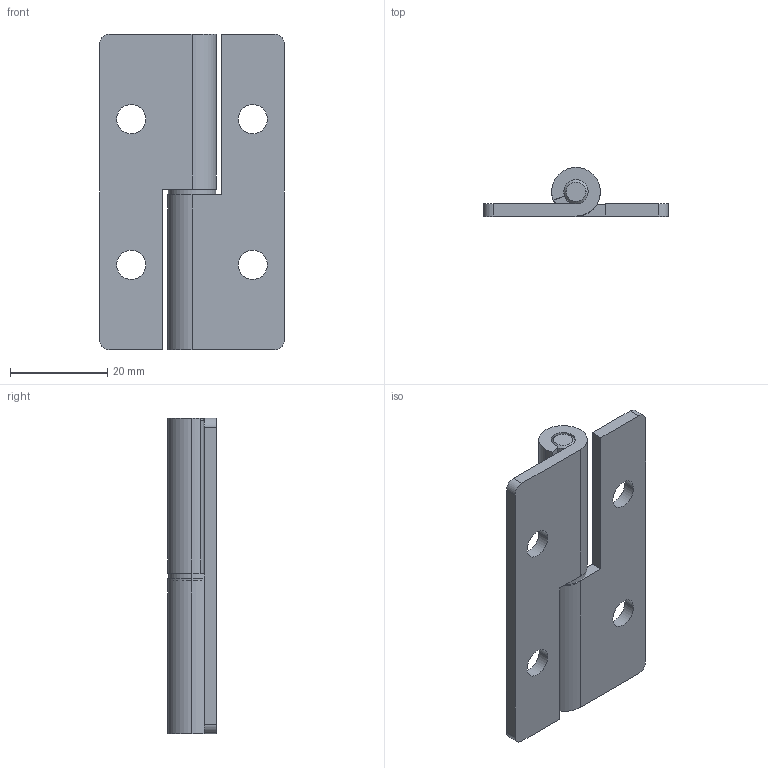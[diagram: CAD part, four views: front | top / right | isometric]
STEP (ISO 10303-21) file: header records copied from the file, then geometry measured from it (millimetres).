
FILE_DESCRIPTION (( 'STEP AP203' ), '1' );
FILE_NAME ('BS-3865-3R.STEP', '2015-11-21T14:42:31', ( '' ), ( '' ), 'SwSTEP 2.0', 'SolidWorks 2014', '' );
FILE_SCHEMA (( 'CONFIG_CONTROL_DESIGN' ));
Length unit declared in the file: millimetre
Products named in the file (5): R; 零件5; BS-3865-3R; 零件4
Assembly tree (4 placements, depth 2):
  BS-3865-3R
    R
    零件4
    零件5
    R
Bounding box: 38 x 10 x 65 mm (x, y, z)
Volume: 9210.7 mm3; surface area: 8723 mm2
Topology: 4 solids, 4 shells, 54 faces, 134 edges, 88 vertices
Faces by surface type: cylinder 30, plane 20, cone 4
Entity records: 2173 total; most frequent: DIRECTION 320, CARTESIAN_POINT 283, ORIENTED_EDGE 268, EDGE_CURVE 134, AXIS2_PLACEMENT_3D 125, VERTEX_POINT 88, VECTOR 70, LINE 70
